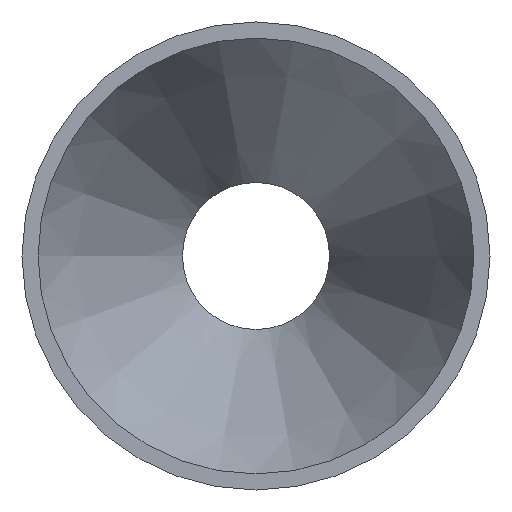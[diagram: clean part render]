
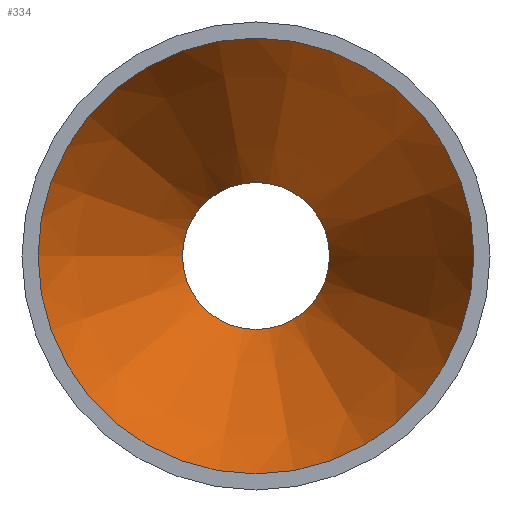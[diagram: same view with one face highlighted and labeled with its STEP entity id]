
A CAD part, left-side view. The second image highlights one B-rep face of the part: STEP entity #334.
In plain terms, the highlighted conical face has half-angle 23.532 degrees and reference radius 27.686 mm.
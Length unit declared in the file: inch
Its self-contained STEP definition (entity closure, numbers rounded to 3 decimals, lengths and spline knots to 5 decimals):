
#66=FACE_OUTER_BOUND('',#82,.T.);
#82=EDGE_LOOP('',(#235,#236,#237,#238,#239,#240));
#104=LINE('',#580,#114);
#114=VECTOR('',#447,1.09);
#127=CIRCLE('',#375,0.55);
#128=CIRCLE('',#376,1.63);
#129=CIRCLE('',#377,1.63);
#130=CIRCLE('',#378,0.55);
#159=VERTEX_POINT('',#576);
#160=VERTEX_POINT('',#577);
#161=VERTEX_POINT('',#579);
#162=VERTEX_POINT('',#581);
#192=EDGE_CURVE('',#159,#160,#127,.T.);
#193=EDGE_CURVE('',#160,#161,#104,.T.);
#194=EDGE_CURVE('',#162,#161,#128,.T.);
#195=EDGE_CURVE('',#161,#162,#129,.T.);
#196=EDGE_CURVE('',#160,#159,#130,.T.);
#235=ORIENTED_EDGE('',*,*,#192,.T.);
#236=ORIENTED_EDGE('',*,*,#193,.T.);
#237=ORIENTED_EDGE('',*,*,#194,.F.);
#238=ORIENTED_EDGE('',*,*,#195,.F.);
#239=ORIENTED_EDGE('',*,*,#193,.F.);
#240=ORIENTED_EDGE('',*,*,#196,.T.);
#314=CONICAL_SURFACE('',#374,1.09,0.411);
#334=ADVANCED_FACE('',(#66),#314,.F.);
#374=AXIS2_PLACEMENT_3D('',#575,#443,#444);
#375=AXIS2_PLACEMENT_3D('',#578,#445,#446);
#376=AXIS2_PLACEMENT_3D('',#582,#448,#449);
#377=AXIS2_PLACEMENT_3D('',#583,#450,#451);
#378=AXIS2_PLACEMENT_3D('',#584,#452,#453);
#443=DIRECTION('center_axis',(-1.,0.,0.));
#444=DIRECTION('ref_axis',(0.,1.,0.));
#445=DIRECTION('center_axis',(1.,0.,0.));
#446=DIRECTION('ref_axis',(0.,1.,0.));
#447=DIRECTION('',(-0.917,-0.399,0.));
#448=DIRECTION('center_axis',(1.,0.,0.));
#449=DIRECTION('ref_axis',(0.,1.,0.));
#450=DIRECTION('center_axis',(1.,0.,0.));
#451=DIRECTION('ref_axis',(0.,1.,0.));
#452=DIRECTION('center_axis',(1.,0.,0.));
#453=DIRECTION('ref_axis',(0.,1.,0.));
#575=CARTESIAN_POINT('Origin',(2.5,0.,0.));
#576=CARTESIAN_POINT('',(3.74,0.55,0.));
#577=CARTESIAN_POINT('',(3.74,-0.55,0.));
#578=CARTESIAN_POINT('Origin',(3.74,0.,0.));
#579=CARTESIAN_POINT('',(1.26,-1.63,0.));
#580=CARTESIAN_POINT('',(2.5,-1.09,0.));
#581=CARTESIAN_POINT('',(1.26,1.63,0.));
#582=CARTESIAN_POINT('Origin',(1.26,0.,0.));
#583=CARTESIAN_POINT('Origin',(1.26,0.,0.));
#584=CARTESIAN_POINT('Origin',(3.74,0.,0.));
